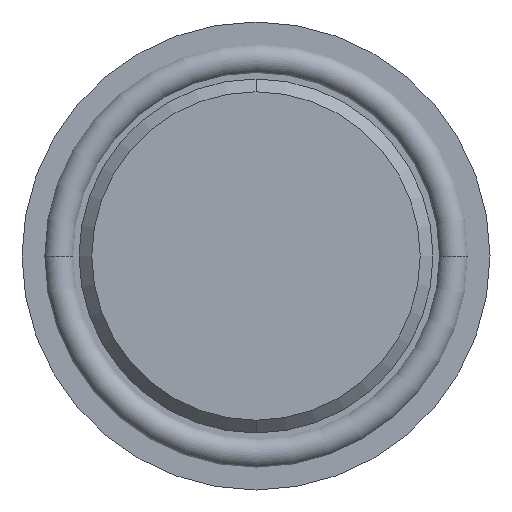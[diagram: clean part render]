
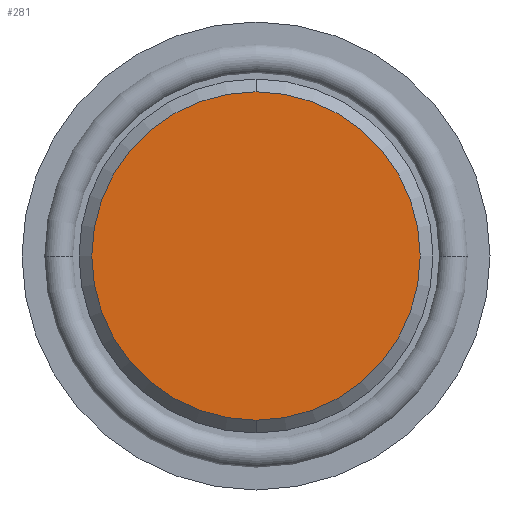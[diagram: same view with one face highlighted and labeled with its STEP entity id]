
A CAD part, front view. The second image highlights one B-rep face of the part: STEP entity #281.
In plain terms, the highlighted planar face has unit normal (0, -1, 0).
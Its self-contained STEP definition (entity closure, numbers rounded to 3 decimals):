
#19=CARTESIAN_POINT('',(0.,-15.,0.));
#20=DIRECTION('',(0.,-1.,0.));
#21=DIRECTION('',(0.,0.,1.));
#22=AXIS2_PLACEMENT_3D('',#19,#20,#21);
#24=CARTESIAN_POINT('',(0.,-15.,0.));
#25=DIRECTION('',(0.,1.,0.));
#26=DIRECTION('',(0.,0.,1.));
#27=AXIS2_PLACEMENT_3D('',#24,#25,#26);
#227=CARTESIAN_POINT('',(0.,-15.,19.3));
#229=VERTEX_POINT('',#227);
#231=CARTESIAN_POINT('',(0.,-15.,-19.3));
#233=VERTEX_POINT('',#231);
#270=CARTESIAN_POINT('',(0.,-15.,0.));
#271=DIRECTION('',(0.,1.,0.));
#272=DIRECTION('',(0.,0.,-1.));
#273=AXIS2_PLACEMENT_3D('',#270,#271,#272);
#274=PLANE('',#273);
#276=ORIENTED_EDGE('',*,*,#275,.F.);
#278=ORIENTED_EDGE('',*,*,#277,.T.);
#279=EDGE_LOOP('',(#276,#278));
#280=FACE_OUTER_BOUND('',#279,.F.);
#281=ADVANCED_FACE('',(#280),#274,.F.);
#23=CIRCLE('',#22,19.3);
#28=CIRCLE('',#27,19.3);
#275=EDGE_CURVE('',#229,#233,#23,.T.);
#277=EDGE_CURVE('',#229,#233,#28,.T.);
